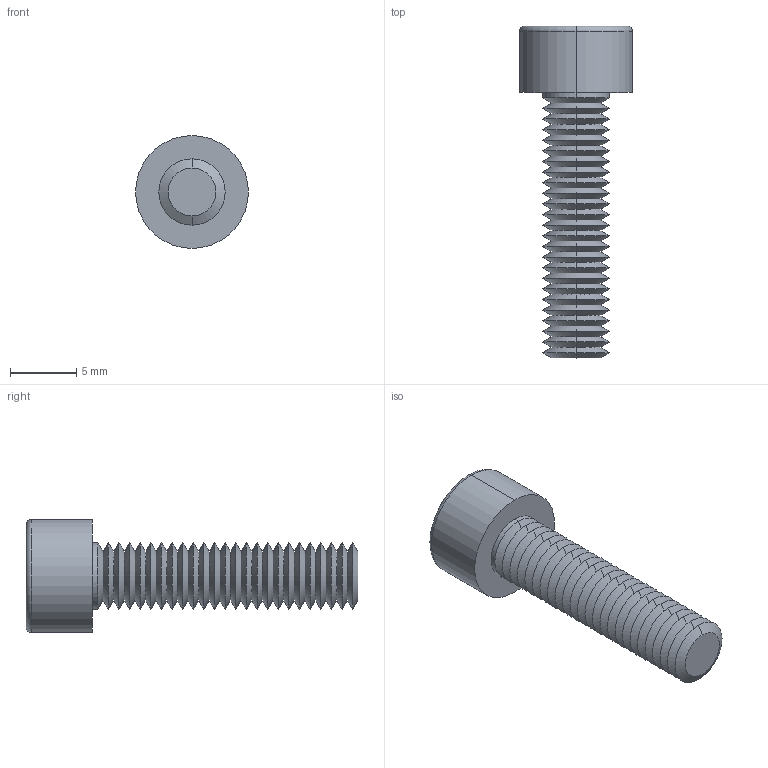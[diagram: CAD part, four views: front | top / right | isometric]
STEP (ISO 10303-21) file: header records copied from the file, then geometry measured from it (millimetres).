
FILE_DESCRIPTION (( 'STEP AP203' ), '1' );
FILE_NAME ('91N.050.0200.step', '2025-05-20T08:51:53', ( '' ), ( '' ), 'SwSTEP 2.0', 'SolidWorks 2019', '' );
FILE_SCHEMA (( 'CONFIG_CONTROL_DESIGN' ));
Length unit declared in the file: millimetre
Products named in the file (1): 91N.050.0200
Bounding box: 8.5 x 25 x 8.5 mm (x, y, z)
Volume: 518.4 mm3; surface area: 826.4 mm2
Topology: 1 solids, 1 shells, 128 faces, 255 edges, 129 vertices
Faces by surface type: cone 107, plane 15, cylinder 4, torus 2
Entity records: 3278 total; most frequent: DIRECTION 627, CARTESIAN_POINT 538, ORIENTED_EDGE 506, EDGE_CURVE 253, AXIS2_PLACEMENT_3D 252, EDGE_LOOP 130, VERTEX_POINT 129, ADVANCED_FACE 128
